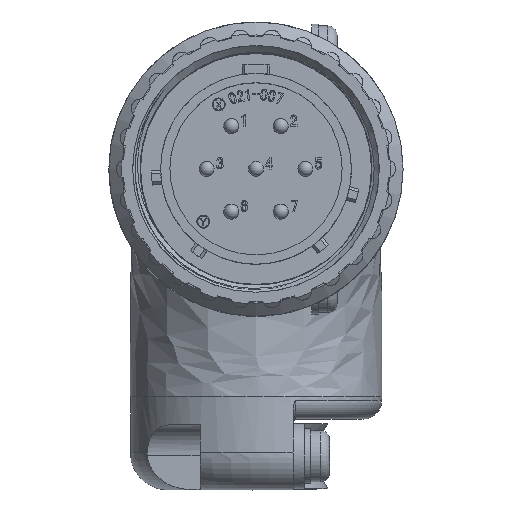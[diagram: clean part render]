
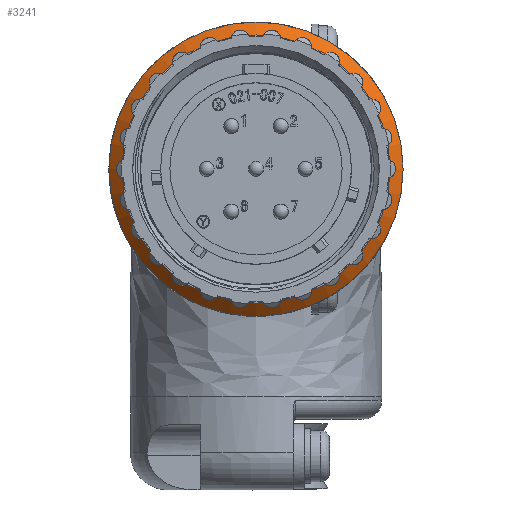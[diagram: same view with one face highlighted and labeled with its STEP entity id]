
A CAD part, top view. The second image highlights one B-rep face of the part: STEP entity #3241.
In plain terms, the highlighted conical face has half-angle 45 degrees and reference radius 14.4 mm.
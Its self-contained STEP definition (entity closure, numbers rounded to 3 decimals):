
#3050 = DIRECTION ( 'NONE',  ( 1., 0., 0. ) ) ;
#3241 = ADVANCED_FACE ( 'NONE', ( #10947, #32060 ), #31005, .T. ) ;
#3573 = CIRCLE ( 'NONE', #8164, 14.4 ) ;
#4873 = EDGE_LOOP ( 'NONE', ( #22555 ) ) ;
#8164 = AXIS2_PLACEMENT_3D ( 'NONE', #17055, #40815, #27489 ) ;
#10947 = FACE_BOUND ( 'NONE', #4873, .T. ) ;
#14340 = EDGE_CURVE ( 'NONE', #41302, #41302, #3573, .T. ) ;
#16865 = CIRCLE ( 'NONE', #27262, 15.8 ) ;
#17055 = CARTESIAN_POINT ( 'NONE',  ( 0., 0., -20.73 ) ) ;
#22555 = ORIENTED_EDGE ( 'NONE', *, *, #14340, .F. ) ;
#23231 = CARTESIAN_POINT ( 'NONE',  ( 0., 0., -22.13 ) ) ;
#23381 = DIRECTION ( 'NONE',  ( 0., 0., 1. ) ) ;
#24607 = CARTESIAN_POINT ( 'NONE',  ( 15.8, 0., -22.13 ) ) ;
#25446 = CARTESIAN_POINT ( 'NONE',  ( 0., 0., -20.73 ) ) ;
#27262 = AXIS2_PLACEMENT_3D ( 'NONE', #23231, #23381, #3050 ) ;
#27489 = DIRECTION ( 'NONE',  ( 1., 0., 0. ) ) ;
#27597 = CARTESIAN_POINT ( 'NONE',  ( 14.4, 0., -20.73 ) ) ;
#31005 = CONICAL_SURFACE ( 'NONE', #41346, 14.4, 0.785 ) ;
#32060 = FACE_OUTER_BOUND ( 'NONE', #41433, .T. ) ;
#35329 = DIRECTION ( 'NONE',  ( 0., 0., -1. ) ) ;
#36245 = ORIENTED_EDGE ( 'NONE', *, *, #36571, .T. ) ;
#36571 = EDGE_CURVE ( 'NONE', #38654, #38654, #16865, .T. ) ;
#38654 = VERTEX_POINT ( 'NONE', #24607 ) ;
#39337 = DIRECTION ( 'NONE',  ( -1., 0., 0. ) ) ;
#40815 = DIRECTION ( 'NONE',  ( 0., 0., 1. ) ) ;
#41302 = VERTEX_POINT ( 'NONE', #27597 ) ;
#41346 = AXIS2_PLACEMENT_3D ( 'NONE', #25446, #35329, #39337 ) ;
#41433 = EDGE_LOOP ( 'NONE', ( #36245 ) ) ;
